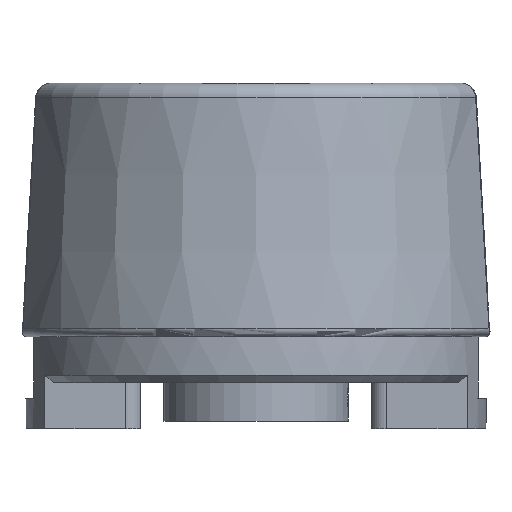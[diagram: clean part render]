
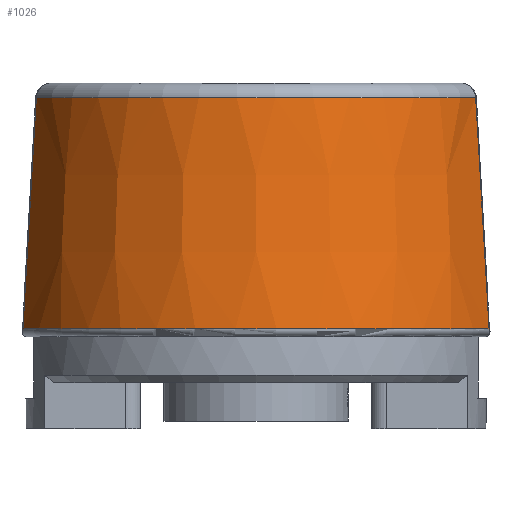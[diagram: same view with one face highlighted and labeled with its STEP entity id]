
A CAD part, front view. The second image highlights one B-rep face of the part: STEP entity #1026.
In plain terms, the highlighted conical face has half-angle 3.468 degrees and reference radius 15 mm.
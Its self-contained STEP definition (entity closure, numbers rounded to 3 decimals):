
#1026=ADVANCED_FACE('',(#2624),#2625,.T.);
#2624=FACE_OUTER_BOUND('',#6104,.T.);
#2625=CONICAL_SURFACE('',#6105,15.0,0.061);
#6104=EDGE_LOOP('',(#8882,#8883,#8884,#8885));
#6105=AXIS2_PLACEMENT_3D('',#8886,#8887,#8888);
#8882=ORIENTED_EDGE('',*,*,#15041,.T.);
#8883=ORIENTED_EDGE('',*,*,#14936,.T.);
#8884=ORIENTED_EDGE('',*,*,#14922,.T.);
#8885=ORIENTED_EDGE('',*,*,#14915,.T.);
#8886=CARTESIAN_POINT('',(16.5,0.0,0.0));
#8887=DIRECTION('',(-1.0,0.0,-0.0));
#8888=DIRECTION('',(0.0,0.0,1.0));
#14915=EDGE_CURVE('',#17526,#17524,#17527,.T.);
#14922=EDGE_CURVE('',#17532,#17526,#17538,.F.);
#14936=EDGE_CURVE('',#17558,#17532,#17559,.T.);
#15041=EDGE_CURVE('',#17524,#17558,#17687,.T.);
#17524=VERTEX_POINT('',#21533);
#17526=VERTEX_POINT('',#21542);
#17527=B_SPLINE_CURVE_WITH_KNOTS('',3,(#21543,#21544,#21545,#21546,#21547,#21548,#21549,#21550,#21551,#21552),.UNSPECIFIED.,.F.,.F.,(4,3,3,4),(0.0,0.002,0.01,0.015),.UNSPECIFIED.);
#17532=VERTEX_POINT('',#21560);
#17538=CIRCLE('',#21566,15.057);
#17558=VERTEX_POINT('',#21591);
#17559=B_SPLINE_CURVE_WITH_KNOTS('',3,(#21592,#21593,#21594,#21595,#21596,#21597,#21598,#21599,#21600,#21601,#21602,#21603,#21604),.UNSPECIFIED.,.F.,.F.,(4,3,3,3,4),(0.0,0.002,0.01,0.011,0.015),.UNSPECIFIED.);
#17687=CIRCLE('',#21812,15.968);
#21533=CARTESIAN_POINT('',(0.53,-4.992,15.167));
#21542=CARTESIAN_POINT('',(15.56,-4.731,14.294));
#21543=CARTESIAN_POINT('',(15.56,-4.731,14.294));
#21544=CARTESIAN_POINT('',(14.895,-4.743,14.333));
#21545=CARTESIAN_POINT('',(14.23,-4.754,14.372));
#21546=CARTESIAN_POINT('',(13.564,-4.766,14.41));
#21547=CARTESIAN_POINT('',(10.902,-4.812,14.565));
#21548=CARTESIAN_POINT('',(8.241,-4.858,14.72));
#21549=CARTESIAN_POINT('',(5.579,-4.904,14.874));
#21550=CARTESIAN_POINT('',(3.896,-4.934,14.972));
#21551=CARTESIAN_POINT('',(2.213,-4.963,15.07));
#21552=CARTESIAN_POINT('',(0.53,-4.992,15.167));
#21560=CARTESIAN_POINT('',(15.56,-4.731,-14.294));
#21566=AXIS2_PLACEMENT_3D('',#26876,#26877,#26878);
#21591=CARTESIAN_POINT('',(0.53,-4.992,-15.167));
#21592=CARTESIAN_POINT('',(0.53,-4.992,-15.167));
#21593=CARTESIAN_POINT('',(1.196,-4.98,-15.129));
#21594=CARTESIAN_POINT('',(1.861,-4.969,-15.09));
#21595=CARTESIAN_POINT('',(2.527,-4.957,-15.052));
#21596=CARTESIAN_POINT('',(5.188,-4.911,-14.897));
#21597=CARTESIAN_POINT('',(7.85,-4.865,-14.742));
#21598=CARTESIAN_POINT('',(10.512,-4.819,-14.588));
#21599=CARTESIAN_POINT('',(10.884,-4.812,-14.566));
#21600=CARTESIAN_POINT('',(11.256,-4.806,-14.544));
#21601=CARTESIAN_POINT('',(11.627,-4.799,-14.523));
#21602=CARTESIAN_POINT('',(12.938,-4.777,-14.447));
#21603=CARTESIAN_POINT('',(14.249,-4.754,-14.37));
#21604=CARTESIAN_POINT('',(15.56,-4.731,-14.294));
#21812=AXIS2_PLACEMENT_3D('',#27020,#27021,#27022);
#26876=CARTESIAN_POINT('',(15.56,0.0,0.0));
#26877=DIRECTION('',(1.0,0.0,0.0));
#26878=DIRECTION('',(0.0,0.0,-1.0));
#27020=CARTESIAN_POINT('',(0.53,0.0,0.0));
#27021=DIRECTION('',(1.0,0.0,0.0));
#27022=DIRECTION('',(0.0,0.0,-1.0));
